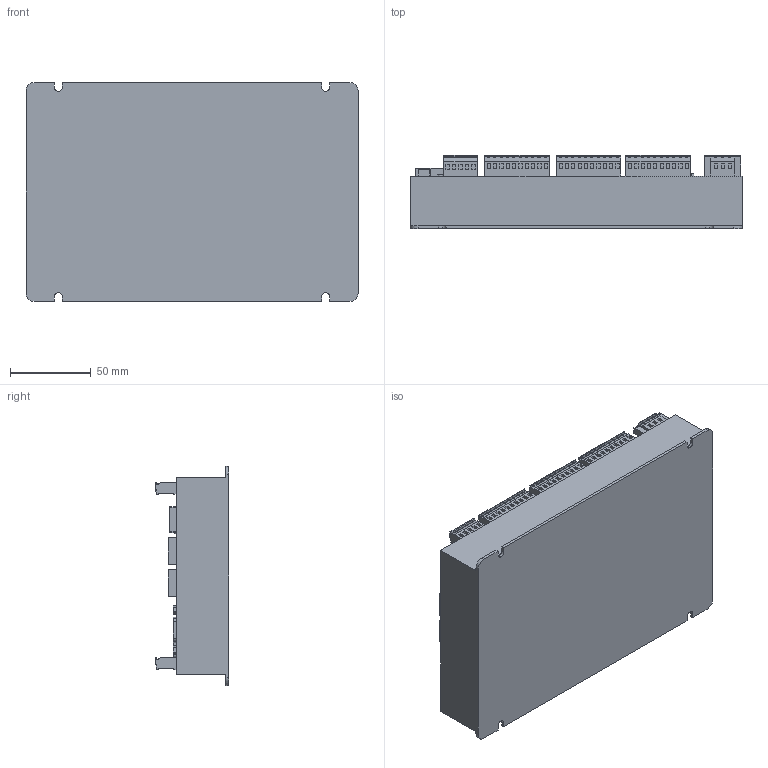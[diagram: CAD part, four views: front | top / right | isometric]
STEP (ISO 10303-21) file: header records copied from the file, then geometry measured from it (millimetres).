
FILE_DESCRIPTION (( 'STEP AP203' ), '1' );
FILE_NAME ('zmc306n.STEP', '2022-07-19T11:54:03', ( '' ), ( '' ), 'SwSTEP 2.0', 'SolidWorks 2019', '' );
FILE_SCHEMA (( 'CONFIG_CONTROL_DESIGN' ));
Length unit declared in the file: millimetre
Products named in the file (1): zmc306n
Bounding box: 205 x 45.4 x 135.25 mm (x, y, z)
Volume: 838082.6 mm3; surface area: 93868.9 mm2
Topology: 1 solids, 1 shells, 1239 faces, 3370 edges, 2246 vertices
Faces by surface type: plane 908, cylinder 331
Entity records: 39451 total; most frequent: CARTESIAN_POINT 6856, DIRECTION 6744, ORIENTED_EDGE 6740, EDGE_CURVE 3370, VECTOR 2476, LINE 2476, VERTEX_POINT 2246, AXIS2_PLACEMENT_3D 2134
